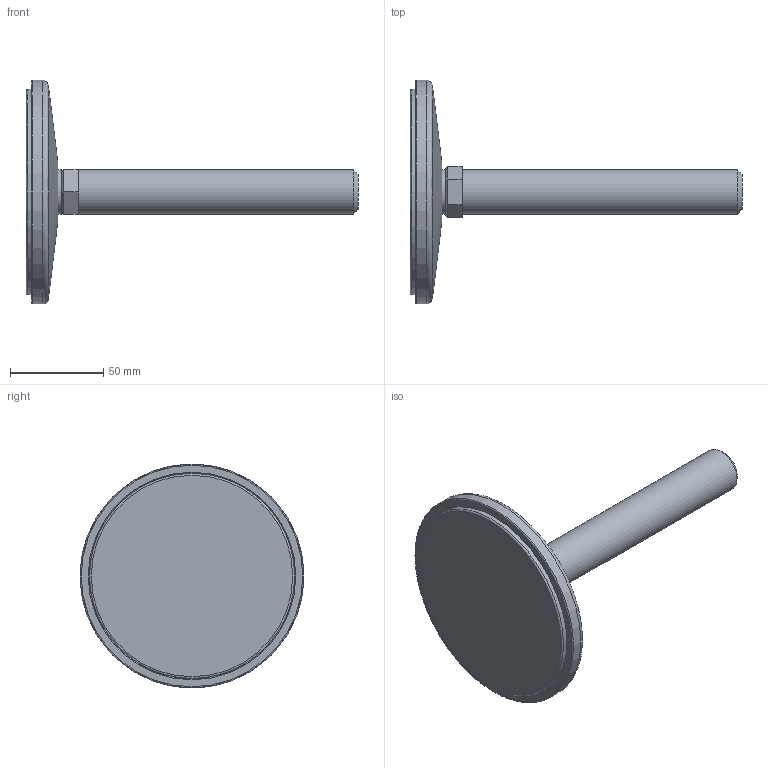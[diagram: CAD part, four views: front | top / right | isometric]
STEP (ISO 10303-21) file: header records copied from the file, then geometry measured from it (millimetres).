
FILE_DESCRIPTION(('STEP AP203'),'2;1');
FILE_NAME('15441-G.stp','2015-09-03T17:10:42',(''),(''),'2008.1.107','THINKDESIGN','');
FILE_SCHEMA(('CONFIG_CONTROL_DESIGN'));
Length unit declared in the file: millimetre
Bounding box: 178 x 120 x 120 mm (x, y, z)
Volume: 226216.5 mm3; surface area: 63211.1 mm2
Topology: 6 solids, 6 shells, 43 faces, 98 edges, 70 vertices
Faces by surface type: plane 20, bspline 16, cylinder 7
Full cylindrical faces by diameter (mm): 14.7 x2, 24 x2, 110 x2, 120 x1
Entity records: 2142 total; most frequent: CARTESIAN_POINT 974, DIRECTION 206, ORIENTED_EDGE 194, EDGE_CURVE 97, AXIS2_PLACEMENT_3D 81, VERTEX_POINT 68, CIRCLE 54, EDGE_LOOP 47
